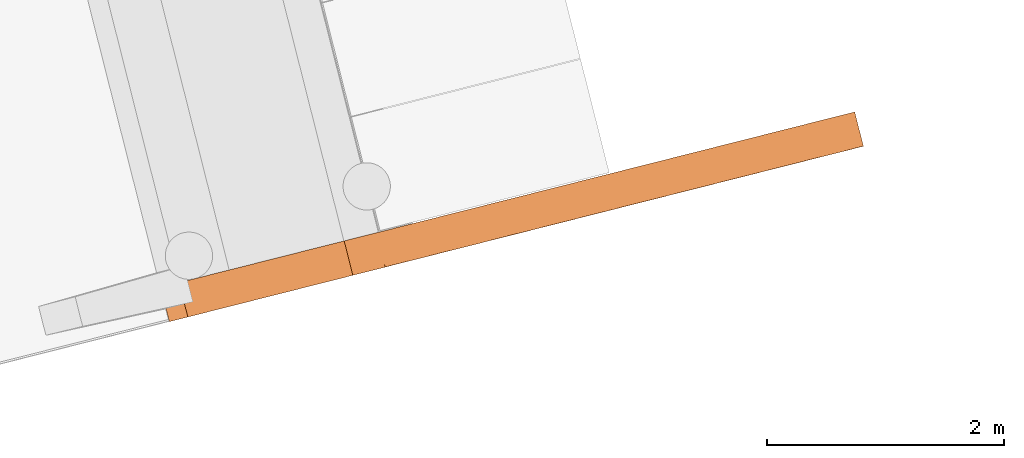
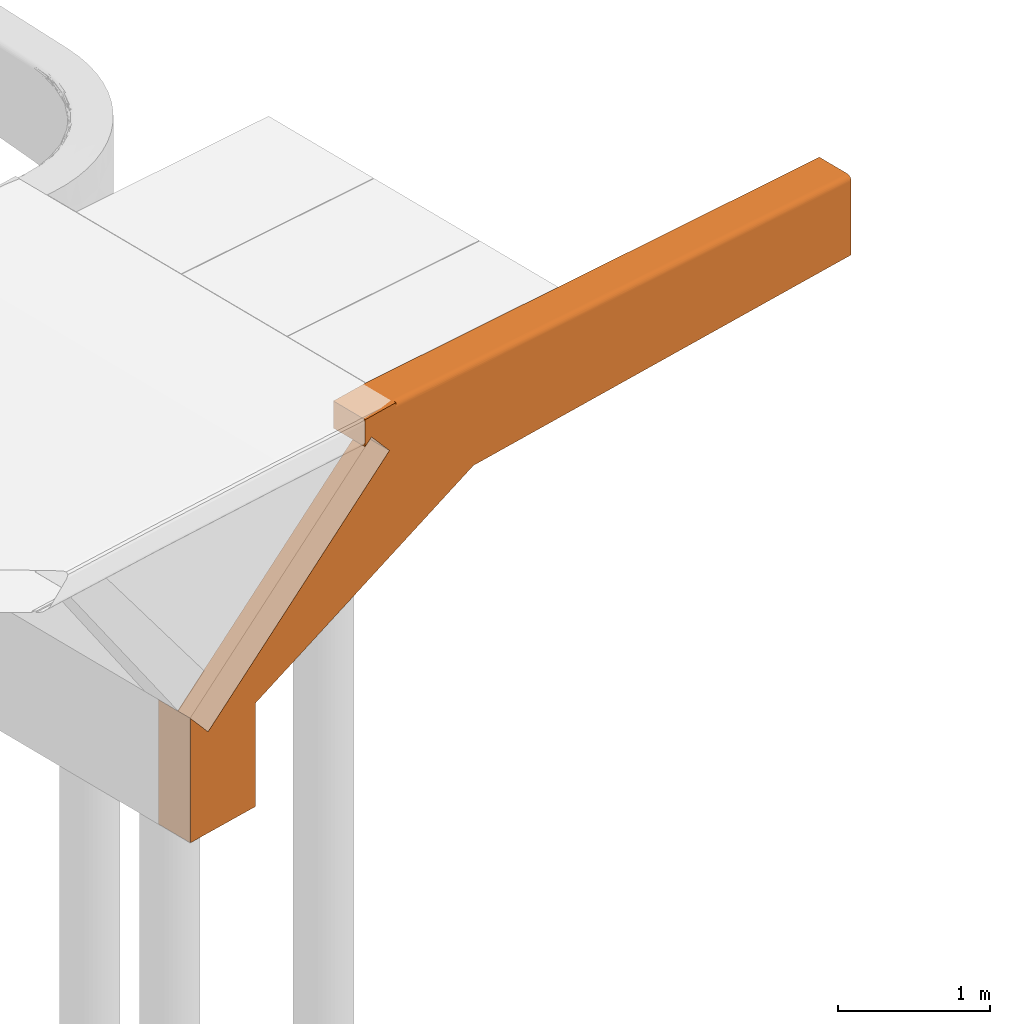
# One storey, part 13 of 15: 1 proxy.
"""IFC2X3 building model written with IfcOpenShell, lengths in millimetres."""

from ifc_helpers import new_model, entity, si_unit, converted_unit, derived_unit, direction, frame, origin, place, context, subcontext, project, spatial, faceted_brep, source, transform, mapped, material, type_object, type_shapes, element, save


model = new_model("IFC2X3")

# Units and contexts
model_context = context("Model", 3, precision=0.01, world=origin(), true_north=direction((6.12303176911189e-17, 1.0)))
body_context = subcontext(model_context, "Body", "Model", "MODEL_VIEW")
ifc_project = project(units=[si_unit("LENGTHUNIT", "METRE", prefix="MILLI"), si_unit("AREAUNIT", "SQUARE_METRE"), si_unit("VOLUMEUNIT", "CUBIC_METRE"), converted_unit("PLANEANGLEUNIT", "DEGREE", entity("IfcRatioMeasure", 0.0174532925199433), si_unit("PLANEANGLEUNIT", "RADIAN"), dimensions=[0, 0, 0, 0, 0, 0, 0]), si_unit("MASSUNIT", "GRAM", prefix="KILO"), derived_unit("MASSDENSITYUNIT", [(si_unit("MASSUNIT", "GRAM", prefix="KILO"), 1), (si_unit("LENGTHUNIT", "METRE"), -3)]), si_unit("TIMEUNIT", "SECOND"), si_unit("FREQUENCYUNIT", "HERTZ"), si_unit("THERMODYNAMICTEMPERATUREUNIT", "DEGREE_CELSIUS"), derived_unit("THERMALTRANSMITTANCEUNIT", [(si_unit("MASSUNIT", "GRAM", prefix="KILO"), 1), (si_unit("THERMODYNAMICTEMPERATUREUNIT", "KELVIN"), -1), (si_unit("TIMEUNIT", "SECOND"), -3)]), derived_unit("VOLUMETRICFLOWRATEUNIT", [(si_unit("LENGTHUNIT", "METRE"), 3), (si_unit("TIMEUNIT", "SECOND"), -1)]), si_unit("ELECTRICCURRENTUNIT", "AMPERE"), si_unit("ELECTRICVOLTAGEUNIT", "VOLT"), si_unit("POWERUNIT", "WATT"), si_unit("FORCEUNIT", "NEWTON", prefix="KILO"), si_unit("ILLUMINANCEUNIT", "LUX"), si_unit("LUMINOUSFLUXUNIT", "LUMEN"), si_unit("LUMINOUSINTENSITYUNIT", "CANDELA"), derived_unit("USERDEFINED", [(si_unit("MASSUNIT", "GRAM", prefix="KILO"), -1), (si_unit("LENGTHUNIT", "METRE"), -2), (si_unit("TIMEUNIT", "SECOND"), 3), (si_unit("LUMINOUSFLUXUNIT", "LUMEN"), 1)]), derived_unit("LINEARVELOCITYUNIT", [(si_unit("LENGTHUNIT", "METRE"), 1), (si_unit("TIMEUNIT", "SECOND"), -1)]), si_unit("PRESSUREUNIT", "PASCAL"), derived_unit("USERDEFINED", [(si_unit("LENGTHUNIT", "METRE"), -2), (si_unit("MASSUNIT", "GRAM", prefix="KILO"), 1), (si_unit("TIMEUNIT", "SECOND"), -2)])], contexts=[model_context])

# Site, building, storey
site_placement = place(None, origin())
site = spatial("IfcSite", under=ifc_project, at=site_placement, Name="Bruggen Achterburggracht Machinesloot", CompositionType="ELEMENT")
building_placement = place(site_placement, origin())
building = spatial("IfcBuilding", under=site, at=building_placement, Name="Bruggen Achterburggracht Machinesloot", CompositionType="ELEMENT")
storey_placement = place(building_placement, origin())
storey = spatial("IfcBuildingStorey", under=building, at=storey_placement, Name="00 begane grond", CompositionType="ELEMENT", Elevation=2.70716782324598e-13)

# Proxy
ifc_material = material(Name="00_PBT_MAT_beton t.p.g.")
building_element_proxy_type = type_object("IfcBuildingElementProxyType", Name="brug 2 vleugelwand", PredefinedType="NOTDEFINED", material=ifc_material)
shared_shape = source(origin(), body_context, "Body", "Brep", [
    faceted_brep([(4407.486751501, 1095.26380585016, 2435.24473621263), (4119.92583549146, 1022.59276318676, 2450.78895430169), (3832.36649037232, 949.922117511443, 2466.33308747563), (3704.12412278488, 917.513309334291, 2473.265278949), (3423.3486682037, 846.557056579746, 2488.44270625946), (3142.57321362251, 775.600803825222, 2503.62013356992), (2830.9259214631, 696.842765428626, 2520.46635016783), (2519.27862930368, 618.084727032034, 2537.31256676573), (2207.63133714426, 539.326688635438, 2554.15878336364), (1895.98404498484, 460.568650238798, 2571.00499996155), (1897.96539597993, 461.06936794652, 2610.0), (1624.73562010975, 392.020023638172, 2610.0), (1624.73562010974, 392.020023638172, 2392.76757830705), (1681.1279940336, 406.271239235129, 2443.32986377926), (1840.14356771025, 446.456907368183, 2254.65246872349), (230.390436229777, 39.6476645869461, 811.322604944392), (73.5037544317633, 0.0, 997.473997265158), (73.5037544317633, 0.0, 0.0), (653.08681217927, 146.469505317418, 0.0), (653.08681217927, 146.469505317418, 830.443244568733), (2585.76746136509, 634.887472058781, 1760.0), (5938.90939445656, 1482.27773585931, 1760.0), (5938.90939445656, 1482.27773585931, 2352.46308466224), (5640.50656817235, 1406.86677660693, 2368.5933664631), (5359.73111359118, 1335.91052385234, 2383.77079377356), (5078.95565900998, 1264.95427109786, 2398.94822108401), (4743.22160606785, 1180.10913976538, 2417.09645698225), (1839.95894861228, 755.841749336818, 2610.0), (1842.0878404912, 756.379752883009, 2610.0), (5865.4056400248, 1773.13371067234, 2392.51797850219), (5865.4056400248, 1773.13371067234, 1760.0), (2512.26370693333, 925.743446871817, 1760.0), (579.583057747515, 437.325480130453, 830.443244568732), (579.583057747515, 437.325480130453, 0.0), (0.0, 290.85597481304, 0.0), (0.0, 290.85597481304, 997.47399726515), (156.886681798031, 330.503639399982, 811.322604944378), (579.583057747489, 437.325480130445, 1190.3187943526), (1549.10297379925, 682.337994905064, 2059.60553217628), (1766.6398132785, 737.312882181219, 2254.65246872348), (1607.62423960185, 697.127214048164, 2443.32986377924), (1551.23186567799, 682.875998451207, 2392.76757830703), (1551.23186567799, 682.875998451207, 2610.0), (5929.10889386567, 1521.058532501, 2392.51797850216), (5931.2897104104, 1512.42899341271, 2391.51371868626), (5933.36117170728, 1504.23217544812, 2388.55129701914), (5935.21940603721, 1496.87910128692, 2383.7792616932), (5936.77123377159, 1490.73848477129, 2377.43690248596), (5937.93883978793, 1486.11824205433, 2369.84225177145), (5938.6636754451, 1483.25005139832, 2361.37613704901), (1905.79109433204, 504.304574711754, 2610.0), (2119.60114965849, 558.337646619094, 2598.44241360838), (2333.41157656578, 612.3708124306, 2586.88480713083), (2547.22200347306, 666.403978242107, 2575.32720065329), (2761.03243038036, 720.437144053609, 2563.76959417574), (3134.80234310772, 814.894519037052, 2543.56531496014), (3415.57786832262, 885.850789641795, 2528.38788383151), (3696.35325227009, 956.807024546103, 2513.21046033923), (3824.59561985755, 989.21583272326, 2506.27826886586), (4112.15565294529, 1061.88665225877, 2490.73409850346), (4399.71588098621, 1134.55752106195, 2475.18991760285), (4735.45033474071, 1219.40275368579, 2457.04166003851), (5071.18478849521, 1304.24798630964, 2438.89340247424), (5284.99504024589, 1358.28110785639, 2427.33580546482), (5632.73569765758, 1446.16049181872, 2408.53854785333), (1890.28978402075, 491.441933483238, 2610.0), (1894.65273658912, 493.806151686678, 2610.0), (1898.30429721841, 495.998079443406, 2610.0), (1901.24090673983, 498.015580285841, 2610.0), (1903.45970284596, 499.856687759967, 2610.0), (1904.95852288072, 501.519607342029, 2610.0), (1905.73590594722, 503.002718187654, 2610.0), (1896.18970764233, 461.666247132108, 2579.94105914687), (1895.88884756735, 464.669188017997, 2588.41438638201), (1895.09724812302, 469.425669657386, 2596.00726870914), (1893.85512260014, 475.694324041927, 2602.33520984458), (1892.22503356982, 483.1594635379, 2607.07971198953), (2192.23348785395, 566.93625562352, 2593.5053961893), (2415.45546034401, 597.873747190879, 2563.69183905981), (2592.0265283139, 649.109843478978, 2562.07114241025), (2312.93129290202, 578.125733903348, 2576.73402814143), (3827.06301809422, 979.161146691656, 2504.91716981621), (3459.05850231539, 881.050436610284, 2523.19125800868), (3829.22395128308, 969.756716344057, 2500.92662931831), (3277.18321092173, 842.29905634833, 2535.10383445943), (3557.74780167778, 914.128178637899, 2520.10628788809), (3620.83994384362, 899.606665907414, 2493.05525580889), (3832.55785333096, 951.376294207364, 2476.67166117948), (3832.06828730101, 955.374218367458, 2486.30567817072), (2159.5897426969, 533.567569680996, 2578.07350430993), (2084.84019426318, 520.483623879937, 2589.06358193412), (2309.40631939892, 567.385112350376, 2561.92046402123), (3573.04683615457, 900.529611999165, 2511.92113046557), (3830.9311553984, 961.643438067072, 2494.57859611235), (2767.92873110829, 713.852252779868, 2562.67930039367), (2549.64735468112, 656.525886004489, 2574.01421650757), (2478.67108356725, 627.982073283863, 2573.67026328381), (2158.95821370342, 546.490302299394, 2590.55055639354), (3528.94364204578, 881.7682532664, 2507.00912774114), (2083.62561511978, 510.326874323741, 2574.12512854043), (3192.24390559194, 804.294885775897, 2532.50558218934), (3219.10868827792, 803.085851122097, 2523.27071896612), (5640.697931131, 1408.32095330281, 2378.93194016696), (3492.46952522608, 864.917526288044, 2492.9815367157), (2950.93795608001, 755.2665593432, 2551.58003437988), (3022.73934913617, 745.925961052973, 2516.94678595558), (2985.12253501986, 738.634362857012, 2526.6586177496), (2675.29264010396, 658.935966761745, 2539.29391707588), (3007.85153693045, 748.123659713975, 2532.50310251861), (2917.8431005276, 730.062686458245, 2543.11775124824), (2671.2087953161, 662.861531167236, 2550.41773577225), (3208.73142115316, 816.461185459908, 2536.17918932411), (3363.74474289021, 834.634775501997, 2506.95263769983), (4711.77379718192, 1197.63075601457, 2455.47524146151), (4453.43695456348, 1123.01766343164, 2464.33129738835), (4819.93794507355, 1215.6380705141, 2444.51994257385), (2706.29556598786, 691.270100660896, 2564.05597569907), (3010.97513708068, 762.781203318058, 2545.05183171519), (2784.47273432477, 704.655403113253, 2556.79000169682), (3247.14020769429, 802.841998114, 2505.88186736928), (4616.11880351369, 1151.12885979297, 2439.25506670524), (4870.60612393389, 1215.44169889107, 2425.49865481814), (4777.57156028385, 1197.31563006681, 2439.51405594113), (4525.59470256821, 1157.54578661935, 2467.57210743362), (4745.11636941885, 1213.7482428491, 2455.8441281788), (4413.42557337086, 1099.51234153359, 2449.26151261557), (4412.76358419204, 1103.92767556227, 2457.65719015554), (5077.52032403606, 1276.67559165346, 2427.19372972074), (4083.95743099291, 1029.64453540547, 2484.30365792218), (5075.81311992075, 1284.78886993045, 2433.54176292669), (5073.65218673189, 1294.19330027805, 2437.5323034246), (4191.19859887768, 1066.0734395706, 2483.61513799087), (4034.11912286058, 1034.48319862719, 2494.35050416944), (4105.33295939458, 1027.43065155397, 2475.85217718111), (4070.53115449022, 1011.05067713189, 2461.95156537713), (5078.65745593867, 1270.40637195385, 2418.92081177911), (5079.14702196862, 1266.40844779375, 2409.28679478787), (4743.53935482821, 1181.12094944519, 2425.53076798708), (4467.05787806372, 1134.30609911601, 2468.093541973), (4210.64251882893, 1048.65879958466, 2461.17324634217), (4500.90011923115, 1119.70208548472, 2438.18469800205), (4285.86894132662, 1065.44961491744, 2450.22082245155), (4257.65751005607, 1091.27128599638, 2482.31671054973), (5329.182103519, 1353.65928039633, 2422.10099336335), (5635.20309589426, 1436.1058057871, 2407.17744880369), (5282.87317004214, 1349.61431657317, 2426.7694169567), (5359.76180106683, 1339.05882174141, 2399.05715285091), (5295.56009628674, 1320.48627799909, 2395.04372602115), (5357.506993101, 1351.48999288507, 2415.46143689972), (5637.36402908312, 1426.7013754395, 2403.18690830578), (5639.07123319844, 1418.58809716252, 2396.83887509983), (5332.56730088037, 1337.57154423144, 2409.51354357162), (5640.20836510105, 1412.3188774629, 2388.5659571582)], [[[0, 1, 2, 3, 4, 5, 6, 7, 8, 9, 10, 11, 12, 13, 14, 15, 16, 17, 18, 19, 20, 21, 22, 23, 24, 25, 26]], [[27, 28, 29, 30, 31, 32, 33, 34, 35, 36, 37, 38, 39, 40, 41, 42]], [[43, 44, 45, 46, 47, 48, 49, 22, 21, 30, 29]], [[12, 11, 42, 41]], [[17, 16, 35, 34]], [[18, 17, 34, 33]], [[19, 18, 33, 32]], [[20, 19, 32, 31]], [[21, 20, 31, 30]], [[29, 28, 50, 51, 52, 53, 54, 55, 56, 57, 58, 59, 60, 61, 62, 63, 64, 43]], [[50, 28, 27, 42, 11, 10, 65, 66, 67, 68, 69, 70, 71]], [[10, 9, 72, 73, 74, 75, 76, 65]], [[77, 51, 68]], [[78, 79, 80]], [[81, 82, 83]], [[84, 85, 56]], [[86, 87, 88]], [[74, 89, 90]], [[67, 77, 68]], [[58, 57, 81]], [[8, 72, 9]], [[89, 91, 78]], [[65, 76, 77]], [[92, 93, 83]], [[52, 51, 77]], [[94, 53, 95]], [[96, 80, 79]], [[75, 74, 90]], [[69, 51, 70]], [[51, 50, 71]], [[70, 51, 71]], [[97, 90, 80]], [[98, 93, 92]], [[76, 75, 97]], [[99, 73, 72]], [[97, 77, 76]], [[77, 97, 96]], [[100, 101, 98]], [[3, 2, 87]], [[23, 102, 24]], [[82, 81, 85]], [[97, 80, 96]], [[3, 87, 103]], [[94, 104, 55]], [[103, 4, 3]], [[66, 65, 77]], [[67, 66, 77]], [[89, 74, 73]], [[95, 52, 77]], [[105, 106, 107]], [[91, 89, 99]], [[93, 98, 88]], [[99, 72, 8]], [[68, 51, 69]], [[108, 109, 110]], [[53, 52, 95]], [[107, 78, 91]], [[84, 111, 82]], [[98, 86, 88]], [[95, 77, 96]], [[8, 7, 91, 99]], [[112, 98, 101]], [[82, 100, 92]], [[113, 114, 115]], [[100, 82, 111]], [[109, 101, 100]], [[94, 95, 116]], [[117, 118, 109]], [[98, 92, 100]], [[92, 83, 82]], [[106, 112, 108]], [[109, 108, 101]], [[112, 119, 103]], [[119, 105, 5]], [[78, 110, 79]], [[118, 96, 79]], [[75, 90, 97]], [[80, 90, 89]], [[73, 99, 89]], [[112, 103, 86]], [[112, 86, 98]], [[120, 121, 122]], [[87, 86, 103]], [[103, 119, 4]], [[5, 4, 119]], [[106, 105, 119]], [[119, 112, 106]], [[7, 107, 91]], [[7, 6, 107]], [[107, 106, 110]], [[105, 6, 5]], [[6, 105, 107]], [[89, 78, 80]], [[110, 78, 107]], [[96, 116, 95]], [[79, 110, 109]], [[117, 111, 104]], [[118, 79, 109]], [[55, 84, 56]], [[85, 57, 56]], [[84, 55, 104]], [[100, 111, 117]], [[111, 84, 104]], [[100, 117, 109]], [[118, 117, 104]], [[57, 85, 81]], [[82, 85, 84]], [[54, 53, 94, 55]], [[118, 104, 116]], [[94, 116, 104]], [[118, 116, 96]], [[101, 108, 112]], [[106, 108, 110]], [[123, 124, 61]], [[125, 120, 126]], [[115, 122, 127]], [[128, 83, 93]], [[129, 130, 113]], [[131, 81, 83]], [[132, 59, 58]], [[129, 115, 127]], [[128, 93, 133]], [[128, 133, 114]], [[122, 115, 114]], [[134, 88, 87]], [[135, 122, 121]], [[135, 121, 136]], [[120, 122, 126]], [[121, 120, 137]], [[123, 138, 113]], [[123, 113, 124]], [[26, 25, 137]], [[133, 93, 88]], [[88, 134, 139]], [[137, 120, 140]], [[141, 1, 0]], [[133, 139, 126]], [[127, 122, 135]], [[142, 138, 123]], [[88, 139, 133]], [[137, 140, 26]], [[132, 142, 59]], [[2, 134, 87]], [[59, 142, 60]], [[62, 124, 130]], [[115, 129, 113]], [[128, 131, 83]], [[131, 128, 114]], [[126, 114, 133]], [[114, 126, 122]], [[137, 25, 136]], [[121, 137, 136]], [[0, 26, 140]], [[134, 1, 141]], [[140, 120, 125]], [[60, 142, 123]], [[81, 131, 132]], [[60, 123, 61]], [[138, 114, 113]], [[138, 131, 114]], [[131, 138, 142]], [[142, 132, 131]], [[81, 132, 58]], [[140, 125, 141]], [[139, 125, 126]], [[61, 124, 62]], [[124, 113, 130]], [[141, 125, 139]], [[1, 134, 2]], [[140, 141, 0]], [[134, 141, 139]], [[143, 144, 145]], [[146, 147, 102]], [[64, 63, 62, 145]], [[129, 148, 143]], [[149, 143, 148]], [[64, 145, 144]], [[143, 130, 129]], [[148, 129, 127]], [[149, 148, 150]], [[151, 146, 152]], [[24, 147, 25]], [[102, 152, 146]], [[151, 135, 146]], [[148, 151, 150]], [[151, 148, 127]], [[150, 151, 152]], [[136, 146, 135]], [[151, 127, 135]], [[136, 147, 146]], [[136, 25, 147]], [[144, 143, 149]], [[102, 147, 24]], [[130, 145, 62]], [[130, 143, 145]], [[149, 46, 45]], [[144, 45, 44]], [[64, 44, 43]], [[144, 44, 64]], [[144, 149, 45]], [[149, 150, 46]], [[152, 48, 47]], [[23, 22, 49]], [[102, 49, 48]], [[47, 150, 152]], [[49, 102, 23]], [[102, 48, 152]], [[46, 150, 47]], [[15, 36, 35, 16]], [[40, 39, 14, 13]], [[40, 13, 12, 41]], [[37, 36, 15, 14, 39, 38]]]),
])
type_shapes(building_element_proxy_type, [shared_shape])
proxy_placement = place(storey_placement, frame((-49445.4880668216, 37332.6992274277, -2350.0)))
element("IfcBuildingElementProxy", 1, at=proxy_placement, inside=storey, type_object=building_element_proxy_type, material=ifc_material, Name="brug 2 vleugelwand:brug 2 vleugelwand", ObjectType="brug 2 vleugelwand:brug 2 vleugelwand", context=body_context, shape_type="MappedRepresentation", body=[
    mapped(shared_shape, transform((0.0, 0.0, 0.0), scale=1.0)),
])

save(model, "model.ifc")
